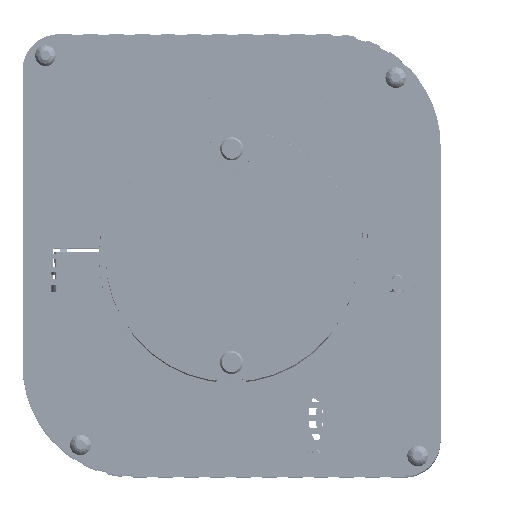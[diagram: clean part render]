
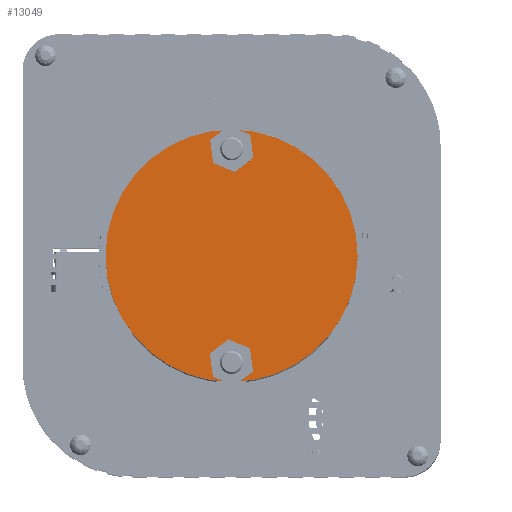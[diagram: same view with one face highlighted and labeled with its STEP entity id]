
A CAD part, top view. The second image highlights one B-rep face of the part: STEP entity #13049.
In plain terms, the highlighted planar face has unit normal (0, 0, 1).
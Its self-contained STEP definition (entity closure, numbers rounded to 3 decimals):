
#4097=CIRCLE('',#80952,3.366);
#4099=CIRCLE('',#80955,34.671);
#4101=CIRCLE('',#80958,3.366);
#7029=FACE_BOUND('',#21490,.T.);
#7030=FACE_BOUND('',#21491,.T.);
#7031=FACE_BOUND('',#21492,.T.);
#9504=PLANE('',#80961);
#13049=ADVANCED_FACE('',(#7029,#7030,#7031),#9504,.F.);
#21490=EDGE_LOOP('',(#49453));
#21491=EDGE_LOOP('',(#49454));
#21492=EDGE_LOOP('',(#49455));
#49453=ORIENTED_EDGE('',*,*,#71681,.F.);
#49454=ORIENTED_EDGE('',*,*,#71679,.T.);
#49455=ORIENTED_EDGE('',*,*,#71683,.T.);
#61850=VERTEX_POINT('',#138516);
#61852=VERTEX_POINT('',#138521);
#61854=VERTEX_POINT('',#138526);
#71679=EDGE_CURVE('',#61850,#61850,#4097,.T.);
#71681=EDGE_CURVE('',#61852,#61852,#4099,.T.);
#71683=EDGE_CURVE('',#61854,#61854,#4101,.T.);
#80952=AXIS2_PLACEMENT_3D('',#138515,#96177,#96178);
#80955=AXIS2_PLACEMENT_3D('',#138520,#96183,#96184);
#80958=AXIS2_PLACEMENT_3D('',#138525,#96189,#96190);
#80961=AXIS2_PLACEMENT_3D('',#138529,#96195,#96196);
#96177=DIRECTION('',(0.,0.,-1.));
#96178=DIRECTION('',(1.,-0.001,0.));
#96183=DIRECTION('',(0.,0.,-1.));
#96184=DIRECTION('',(1.,-0.001,0.));
#96189=DIRECTION('',(0.,0.,-1.));
#96190=DIRECTION('',(1.,-0.001,0.));
#96195=DIRECTION('',(0.,0.,-1.));
#96196=DIRECTION('',(-1.,0.001,0.));
#138515=CARTESIAN_POINT('',(-0.033,-11.074,421.775));
#138516=CARTESIAN_POINT('',(3.333,-11.078,421.775));
#138520=CARTESIAN_POINT('',(0.,18.288,421.775));
#138521=CARTESIAN_POINT('',(34.671,18.249,421.775));
#138525=CARTESIAN_POINT('',(0.033,47.65,421.775));
#138526=CARTESIAN_POINT('',(3.398,47.647,421.775));
#138529=CARTESIAN_POINT('',(-0.016,3.607,421.775));
